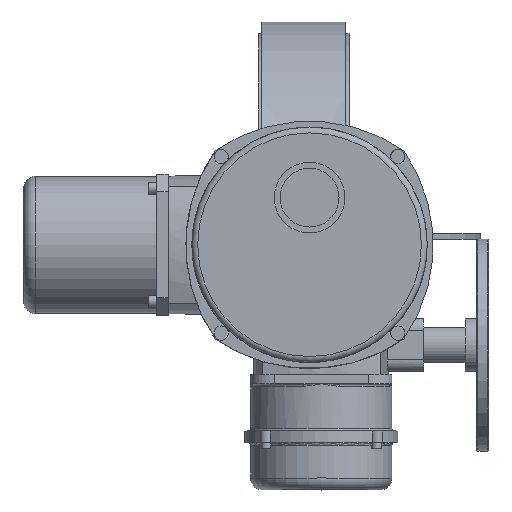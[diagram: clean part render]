
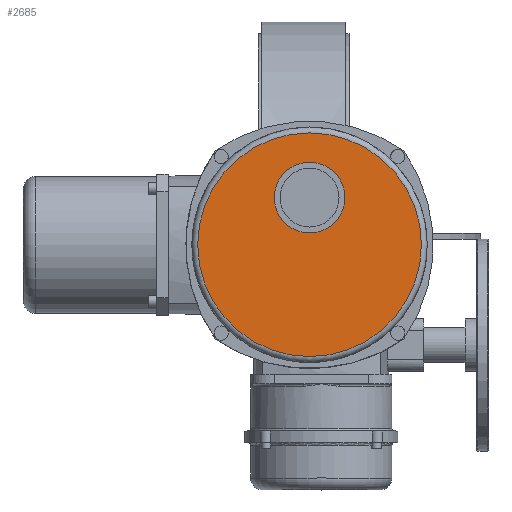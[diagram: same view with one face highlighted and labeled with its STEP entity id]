
A CAD part, top view. The second image highlights one B-rep face of the part: STEP entity #2685.
In plain terms, the highlighted planar face has unit normal (0, 0, 1).
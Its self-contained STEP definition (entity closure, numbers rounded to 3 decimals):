
#2685=ADVANCED_FACE('',(#5899,#5901),#5903,.T.);
#5899=FACE_BOUND('',#5900,.T.);
#5900=EDGE_LOOP('',(#7501));
#5901=FACE_BOUND('',#5902,.T.);
#5902=EDGE_LOOP('',(#7502));
#5903=PLANE('',#5904);
#5904=AXIS2_PLACEMENT_3D('',#5905,#5906,#5907);
#5905=CARTESIAN_POINT('',(5.,-8.,540.));
#5906=DIRECTION('',(0.,0.,1.));
#5907=DIRECTION('',(1.,0.,0.));
#7501=ORIENTED_EDGE('',*,*,#8260,.T.);
#7502=ORIENTED_EDGE('',*,*,#8323,.F.);
#8260=EDGE_CURVE('',#9399,#9399,#9400,.T.);
#8323=EDGE_CURVE('',#9501,#9501,#9502,.T.);
#9399=VERTEX_POINT('',#14434);
#9400=CIRCLE('',#14435,95.);
#9501=VERTEX_POINT('',#14695);
#9502=CIRCLE('',#14696,30.);
#14434=CARTESIAN_POINT('',(100.,-8.,540.));
#14435=AXIS2_PLACEMENT_3D('',#14436,#14437,#14438);
#14436=CARTESIAN_POINT('',(5.,-8.,540.));
#14437=DIRECTION('',(0.,0.,1.));
#14438=DIRECTION('',(1.,0.,0.));
#14695=CARTESIAN_POINT('',(35.,32.,540.));
#14696=AXIS2_PLACEMENT_3D('',#14697,#14698,#14699);
#14697=CARTESIAN_POINT('',(5.,32.,540.));
#14698=DIRECTION('',(0.,0.,1.));
#14699=DIRECTION('',(1.,0.,0.));
